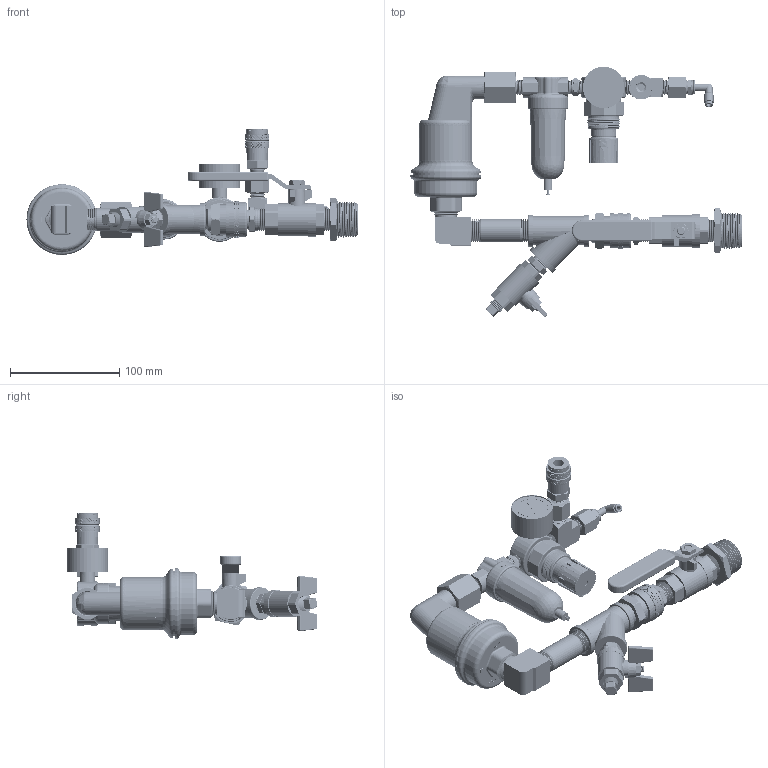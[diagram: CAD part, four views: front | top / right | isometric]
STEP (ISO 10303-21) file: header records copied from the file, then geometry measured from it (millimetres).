
FILE_DESCRIPTION(/* description */ ('','CAx-IF Rec.Pracs.---Representation and Presentation of Product Manufacturing Information (PMI)---4.0---2014-10-13'),/* implementation_level */ '2;1');
FILE_NAME(/* name */ 'C:\Vault Local\Designs\CAD\Manufacturing\ECS Products\PAV-DQ\Export\PAV-DQ.stp',/* time_stamp */ '2020-08-27T11:05:05-05:00',/* author */ ('myoung'),/* organization */ (''),/* preprocessor_version */ 'ST-DEVELOPER v18.1',/* originating_system */ 'Autodesk Inventor 2020',/* authorisation */ '');
FILE_SCHEMA (('AP242_MANAGED_MODEL_BASED_3D_ENGINEERING_MIM_LF { 1 0 10303 442 1 1 4 }'));
Length unit declared in the file: inch
Products named in the file (1): PAV-DQ_Shrinkwrap_1
Bounding box: 303.7 x 229.75 x 115.54 mm (x, y, z)
Volume: 520433.8 mm3; surface area: 178459.5 mm2
Topology: 4 solids, 9 shells, 11243 faces, 26543 edges, 15041 vertices
Faces by surface type: plane 8622, cylinder 1503, cone 569, bspline 262, torus 175, sphere 112
Full cylindrical faces by diameter (mm): 0.254 x1, 0.406 x1, 2.388 x2, 2.5 x1, 2.699 x2, 3.969 x1, 4.318 x1, 4.343 x3, 5.08 x1, 5.527 x9, 6.221 x8, 6.272 x1, 6.35 x3, 6.412 x1, 6.706 x2, 6.729 x1, 6.985 x1, 7.057 x10, 7.112 x1, 7.544 x1, 7.785 x9, 7.836 x2, 7.899 x1, 7.976 x2, 8.382 x1, 8.611 x1, 8.636 x1, 9.246 x1, 9.398 x2, 9.456 x1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
Entity records: 442921 total; most frequent: CARTESIAN_POINT 172915, DIRECTION 56676, ORIENTED_EDGE 53005, EDGE_CURVE 26510, AXIS2_PLACEMENT_3D 20923, VERTEX_POINT 15041, LINE 14830, VECTOR 14830
